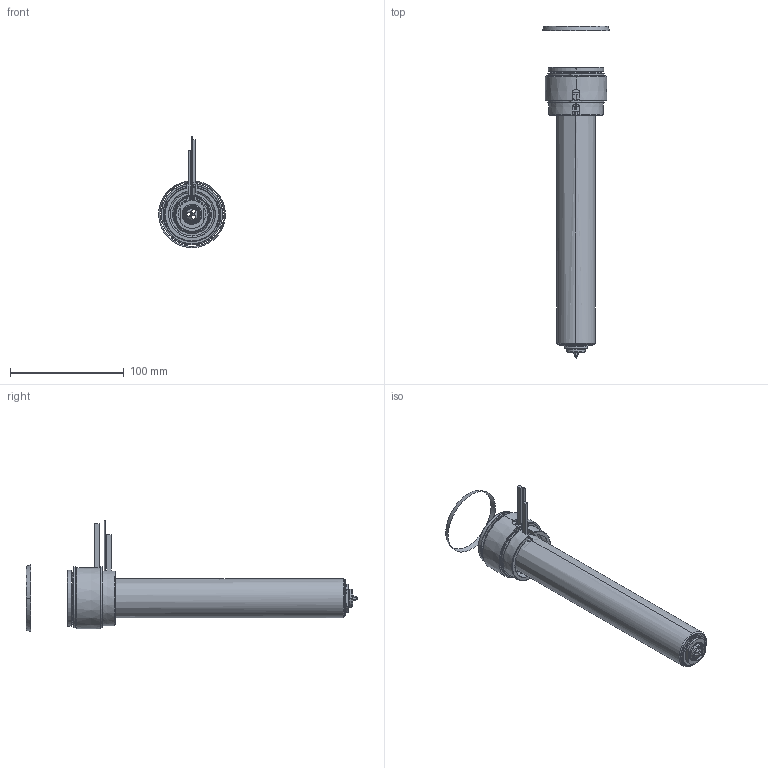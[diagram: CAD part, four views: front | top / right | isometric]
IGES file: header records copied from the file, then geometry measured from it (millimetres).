
Start section: SolidWorks IGES file using analytic representation for surfaces
Global section: file name: C:\Documents and Settings\ws-20\Desktop\TEM\UGEP5505-S-A-0 [Øf-1.55 ØC-12].IGS; native system: SolidWorks 2012; preprocessor: SolidWorks 2012; author: ws-20; date: 120427.080657; units: millimetre
Bounding box: 58.79 x 292.24 x 98.01 mm (x, y, z)
Surface area: 106345.1 mm2 (no closed solid volume)
Topology: 0 solids, 0 shells, 177 faces, 3604 edges, 3604 vertices
Faces by surface type: revolution 114, bspline 63
